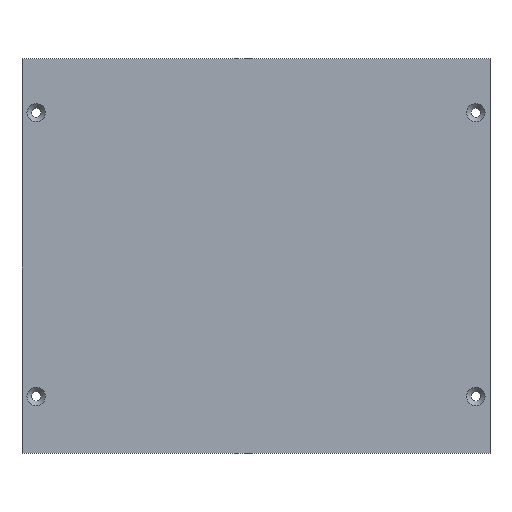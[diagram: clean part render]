
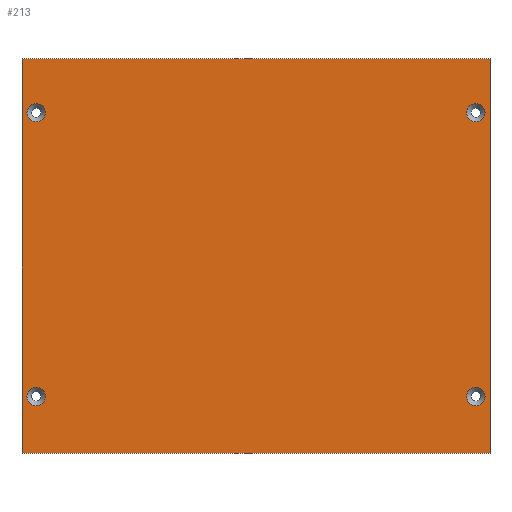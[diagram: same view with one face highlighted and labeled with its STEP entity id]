
A CAD part, top view. The second image highlights one B-rep face of the part: STEP entity #213.
In plain terms, the highlighted planar face has unit normal (0, 0, 1).
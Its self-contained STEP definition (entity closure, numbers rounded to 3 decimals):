
#24 = VERTEX_POINT('',#25);
#25 = CARTESIAN_POINT('',(0.,0.,3.));
#32 = PLANE('',#33);
#33 = AXIS2_PLACEMENT_3D('',#34,#35,#36);
#34 = CARTESIAN_POINT('',(0.,0.,0.));
#35 = DIRECTION('',(1.,0.,0.));
#36 = DIRECTION('',(0.,0.,1.));
#44 = PLANE('',#45);
#45 = AXIS2_PLACEMENT_3D('',#46,#47,#48);
#46 = CARTESIAN_POINT('',(0.,0.,0.));
#47 = DIRECTION('',(0.,1.,0.));
#48 = DIRECTION('',(0.,0.,1.));
#85 = VERTEX_POINT('',#86);
#86 = CARTESIAN_POINT('',(0.,139.,3.));
#100 = PLANE('',#101);
#101 = AXIS2_PLACEMENT_3D('',#102,#103,#104);
#102 = CARTESIAN_POINT('',(0.,139.,0.));
#103 = DIRECTION('',(0.,1.,0.));
#104 = DIRECTION('',(0.,0.,1.));
#112 = EDGE_CURVE('',#24,#85,#113,.T.);
#113 = SURFACE_CURVE('',#114,(#118,#125),.PCURVE_S1.);
#114 = LINE('',#115,#116);
#115 = CARTESIAN_POINT('',(0.,0.,3.));
#116 = VECTOR('',#117,1.);
#117 = DIRECTION('',(0.,1.,0.));
#118 = PCURVE('',#32,#119);
#119 = DEFINITIONAL_REPRESENTATION('',(#120),#124);
#120 = LINE('',#121,#122);
#121 = CARTESIAN_POINT('',(3.,0.));
#122 = VECTOR('',#123,1.);
#123 = DIRECTION('',(0.,-1.));
#124 = ( GEOMETRIC_REPRESENTATION_CONTEXT(2) 
PARAMETRIC_REPRESENTATION_CONTEXT() REPRESENTATION_CONTEXT('2D SPACE',''
  ) );
#125 = PCURVE('',#126,#131);
#126 = PLANE('',#127);
#127 = AXIS2_PLACEMENT_3D('',#128,#129,#130);
#128 = CARTESIAN_POINT('',(0.,0.,3.));
#129 = DIRECTION('',(0.,0.,1.));
#130 = DIRECTION('',(1.,0.,0.));
#131 = DEFINITIONAL_REPRESENTATION('',(#132),#136);
#132 = LINE('',#133,#134);
#133 = CARTESIAN_POINT('',(0.,0.));
#134 = VECTOR('',#135,1.);
#135 = DIRECTION('',(0.,1.));
#136 = ( GEOMETRIC_REPRESENTATION_CONTEXT(2) 
PARAMETRIC_REPRESENTATION_CONTEXT() REPRESENTATION_CONTEXT('2D SPACE',''
  ) );
#165 = EDGE_CURVE('',#24,#166,#168,.T.);
#166 = VERTEX_POINT('',#167);
#167 = CARTESIAN_POINT('',(165.,0.,3.));
#168 = SURFACE_CURVE('',#169,(#173,#180),.PCURVE_S1.);
#169 = LINE('',#170,#171);
#170 = CARTESIAN_POINT('',(0.,0.,3.));
#171 = VECTOR('',#172,1.);
#172 = DIRECTION('',(1.,0.,0.));
#173 = PCURVE('',#44,#174);
#174 = DEFINITIONAL_REPRESENTATION('',(#175),#179);
#175 = LINE('',#176,#177);
#176 = CARTESIAN_POINT('',(3.,0.));
#177 = VECTOR('',#178,1.);
#178 = DIRECTION('',(0.,1.));
#179 = ( GEOMETRIC_REPRESENTATION_CONTEXT(2) 
PARAMETRIC_REPRESENTATION_CONTEXT() REPRESENTATION_CONTEXT('2D SPACE',''
  ) );
#180 = PCURVE('',#126,#181);
#181 = DEFINITIONAL_REPRESENTATION('',(#182),#186);
#182 = LINE('',#183,#184);
#183 = CARTESIAN_POINT('',(0.,0.));
#184 = VECTOR('',#185,1.);
#185 = DIRECTION('',(1.,0.));
#186 = ( GEOMETRIC_REPRESENTATION_CONTEXT(2) 
PARAMETRIC_REPRESENTATION_CONTEXT() REPRESENTATION_CONTEXT('2D SPACE',''
  ) );
#202 = PLANE('',#203);
#203 = AXIS2_PLACEMENT_3D('',#204,#205,#206);
#204 = CARTESIAN_POINT('',(165.,0.,0.));
#205 = DIRECTION('',(1.,0.,0.));
#206 = DIRECTION('',(0.,0.,1.));
#213 = ADVANCED_FACE('',(#214,#262,#293,#324,#355),#126,.T.);
#214 = FACE_BOUND('',#215,.T.);
#215 = EDGE_LOOP('',(#216,#217,#218,#241));
#216 = ORIENTED_EDGE('',*,*,#112,.F.);
#217 = ORIENTED_EDGE('',*,*,#165,.T.);
#218 = ORIENTED_EDGE('',*,*,#219,.T.);
#219 = EDGE_CURVE('',#166,#220,#222,.T.);
#220 = VERTEX_POINT('',#221);
#221 = CARTESIAN_POINT('',(165.,139.,3.));
#222 = SURFACE_CURVE('',#223,(#227,#234),.PCURVE_S1.);
#223 = LINE('',#224,#225);
#224 = CARTESIAN_POINT('',(165.,0.,3.));
#225 = VECTOR('',#226,1.);
#226 = DIRECTION('',(0.,1.,0.));
#227 = PCURVE('',#126,#228);
#228 = DEFINITIONAL_REPRESENTATION('',(#229),#233);
#229 = LINE('',#230,#231);
#230 = CARTESIAN_POINT('',(165.,0.));
#231 = VECTOR('',#232,1.);
#232 = DIRECTION('',(0.,1.));
#233 = ( GEOMETRIC_REPRESENTATION_CONTEXT(2) 
PARAMETRIC_REPRESENTATION_CONTEXT() REPRESENTATION_CONTEXT('2D SPACE',''
  ) );
#234 = PCURVE('',#202,#235);
#235 = DEFINITIONAL_REPRESENTATION('',(#236),#240);
#236 = LINE('',#237,#238);
#237 = CARTESIAN_POINT('',(3.,0.));
#238 = VECTOR('',#239,1.);
#239 = DIRECTION('',(0.,-1.));
#240 = ( GEOMETRIC_REPRESENTATION_CONTEXT(2) 
PARAMETRIC_REPRESENTATION_CONTEXT() REPRESENTATION_CONTEXT('2D SPACE',''
  ) );
#241 = ORIENTED_EDGE('',*,*,#242,.F.);
#242 = EDGE_CURVE('',#85,#220,#243,.T.);
#243 = SURFACE_CURVE('',#244,(#248,#255),.PCURVE_S1.);
#244 = LINE('',#245,#246);
#245 = CARTESIAN_POINT('',(0.,139.,3.));
#246 = VECTOR('',#247,1.);
#247 = DIRECTION('',(1.,0.,0.));
#248 = PCURVE('',#126,#249);
#249 = DEFINITIONAL_REPRESENTATION('',(#250),#254);
#250 = LINE('',#251,#252);
#251 = CARTESIAN_POINT('',(0.,139.));
#252 = VECTOR('',#253,1.);
#253 = DIRECTION('',(1.,0.));
#254 = ( GEOMETRIC_REPRESENTATION_CONTEXT(2) 
PARAMETRIC_REPRESENTATION_CONTEXT() REPRESENTATION_CONTEXT('2D SPACE',''
  ) );
#255 = PCURVE('',#100,#256);
#256 = DEFINITIONAL_REPRESENTATION('',(#257),#261);
#257 = LINE('',#258,#259);
#258 = CARTESIAN_POINT('',(3.,0.));
#259 = VECTOR('',#260,1.);
#260 = DIRECTION('',(0.,1.));
#261 = ( GEOMETRIC_REPRESENTATION_CONTEXT(2) 
PARAMETRIC_REPRESENTATION_CONTEXT() REPRESENTATION_CONTEXT('2D SPACE',''
  ) );
#262 = FACE_BOUND('',#263,.T.);
#263 = EDGE_LOOP('',(#264));
#264 = ORIENTED_EDGE('',*,*,#265,.F.);
#265 = EDGE_CURVE('',#266,#266,#268,.T.);
#266 = VERTEX_POINT('',#267);
#267 = CARTESIAN_POINT('',(8.25,20.,3.));
#268 = SURFACE_CURVE('',#269,(#274,#281),.PCURVE_S1.);
#269 = CIRCLE('',#270,3.25);
#270 = AXIS2_PLACEMENT_3D('',#271,#272,#273);
#271 = CARTESIAN_POINT('',(5.,20.,3.));
#272 = DIRECTION('',(0.,0.,1.));
#273 = DIRECTION('',(1.,0.,-0.));
#274 = PCURVE('',#126,#275);
#275 = DEFINITIONAL_REPRESENTATION('',(#276),#280);
#276 = CIRCLE('',#277,3.25);
#277 = AXIS2_PLACEMENT_2D('',#278,#279);
#278 = CARTESIAN_POINT('',(5.,20.));
#279 = DIRECTION('',(1.,0.));
#280 = ( GEOMETRIC_REPRESENTATION_CONTEXT(2) 
PARAMETRIC_REPRESENTATION_CONTEXT() REPRESENTATION_CONTEXT('2D SPACE',''
  ) );
#281 = PCURVE('',#282,#287);
#282 = CONICAL_SURFACE('',#283,1.7,0.785);
#283 = AXIS2_PLACEMENT_3D('',#284,#285,#286);
#284 = CARTESIAN_POINT('',(5.,20.,1.45));
#285 = DIRECTION('',(0.,0.,1.));
#286 = DIRECTION('',(1.,0.,-0.));
#287 = DEFINITIONAL_REPRESENTATION('',(#288),#292);
#288 = LINE('',#289,#290);
#289 = CARTESIAN_POINT('',(0.,1.55));
#290 = VECTOR('',#291,1.);
#291 = DIRECTION('',(1.,0.));
#292 = ( GEOMETRIC_REPRESENTATION_CONTEXT(2) 
PARAMETRIC_REPRESENTATION_CONTEXT() REPRESENTATION_CONTEXT('2D SPACE',''
  ) );
#293 = FACE_BOUND('',#294,.T.);
#294 = EDGE_LOOP('',(#295));
#295 = ORIENTED_EDGE('',*,*,#296,.F.);
#296 = EDGE_CURVE('',#297,#297,#299,.T.);
#297 = VERTEX_POINT('',#298);
#298 = CARTESIAN_POINT('',(163.25,20.,3.));
#299 = SURFACE_CURVE('',#300,(#305,#312),.PCURVE_S1.);
#300 = CIRCLE('',#301,3.25);
#301 = AXIS2_PLACEMENT_3D('',#302,#303,#304);
#302 = CARTESIAN_POINT('',(160.,20.,3.));
#303 = DIRECTION('',(0.,0.,1.));
#304 = DIRECTION('',(1.,0.,-0.));
#305 = PCURVE('',#126,#306);
#306 = DEFINITIONAL_REPRESENTATION('',(#307),#311);
#307 = CIRCLE('',#308,3.25);
#308 = AXIS2_PLACEMENT_2D('',#309,#310);
#309 = CARTESIAN_POINT('',(160.,20.));
#310 = DIRECTION('',(1.,0.));
#311 = ( GEOMETRIC_REPRESENTATION_CONTEXT(2) 
PARAMETRIC_REPRESENTATION_CONTEXT() REPRESENTATION_CONTEXT('2D SPACE',''
  ) );
#312 = PCURVE('',#313,#318);
#313 = CONICAL_SURFACE('',#314,1.7,0.785);
#314 = AXIS2_PLACEMENT_3D('',#315,#316,#317);
#315 = CARTESIAN_POINT('',(160.,20.,1.45));
#316 = DIRECTION('',(0.,0.,1.));
#317 = DIRECTION('',(1.,0.,-0.));
#318 = DEFINITIONAL_REPRESENTATION('',(#319),#323);
#319 = LINE('',#320,#321);
#320 = CARTESIAN_POINT('',(0.,1.55));
#321 = VECTOR('',#322,1.);
#322 = DIRECTION('',(1.,0.));
#323 = ( GEOMETRIC_REPRESENTATION_CONTEXT(2) 
PARAMETRIC_REPRESENTATION_CONTEXT() REPRESENTATION_CONTEXT('2D SPACE',''
  ) );
#324 = FACE_BOUND('',#325,.T.);
#325 = EDGE_LOOP('',(#326));
#326 = ORIENTED_EDGE('',*,*,#327,.F.);
#327 = EDGE_CURVE('',#328,#328,#330,.T.);
#328 = VERTEX_POINT('',#329);
#329 = CARTESIAN_POINT('',(8.25,120.,3.));
#330 = SURFACE_CURVE('',#331,(#336,#343),.PCURVE_S1.);
#331 = CIRCLE('',#332,3.25);
#332 = AXIS2_PLACEMENT_3D('',#333,#334,#335);
#333 = CARTESIAN_POINT('',(5.,120.,3.));
#334 = DIRECTION('',(0.,0.,1.));
#335 = DIRECTION('',(1.,0.,-0.));
#336 = PCURVE('',#126,#337);
#337 = DEFINITIONAL_REPRESENTATION('',(#338),#342);
#338 = CIRCLE('',#339,3.25);
#339 = AXIS2_PLACEMENT_2D('',#340,#341);
#340 = CARTESIAN_POINT('',(5.,120.));
#341 = DIRECTION('',(1.,0.));
#342 = ( GEOMETRIC_REPRESENTATION_CONTEXT(2) 
PARAMETRIC_REPRESENTATION_CONTEXT() REPRESENTATION_CONTEXT('2D SPACE',''
  ) );
#343 = PCURVE('',#344,#349);
#344 = CONICAL_SURFACE('',#345,1.7,0.785);
#345 = AXIS2_PLACEMENT_3D('',#346,#347,#348);
#346 = CARTESIAN_POINT('',(5.,120.,1.45));
#347 = DIRECTION('',(0.,0.,1.));
#348 = DIRECTION('',(1.,0.,-0.));
#349 = DEFINITIONAL_REPRESENTATION('',(#350),#354);
#350 = LINE('',#351,#352);
#351 = CARTESIAN_POINT('',(0.,1.55));
#352 = VECTOR('',#353,1.);
#353 = DIRECTION('',(1.,0.));
#354 = ( GEOMETRIC_REPRESENTATION_CONTEXT(2) 
PARAMETRIC_REPRESENTATION_CONTEXT() REPRESENTATION_CONTEXT('2D SPACE',''
  ) );
#355 = FACE_BOUND('',#356,.T.);
#356 = EDGE_LOOP('',(#357));
#357 = ORIENTED_EDGE('',*,*,#358,.F.);
#358 = EDGE_CURVE('',#359,#359,#361,.T.);
#359 = VERTEX_POINT('',#360);
#360 = CARTESIAN_POINT('',(163.25,120.,3.));
#361 = SURFACE_CURVE('',#362,(#367,#374),.PCURVE_S1.);
#362 = CIRCLE('',#363,3.25);
#363 = AXIS2_PLACEMENT_3D('',#364,#365,#366);
#364 = CARTESIAN_POINT('',(160.,120.,3.));
#365 = DIRECTION('',(0.,0.,1.));
#366 = DIRECTION('',(1.,0.,-0.));
#367 = PCURVE('',#126,#368);
#368 = DEFINITIONAL_REPRESENTATION('',(#369),#373);
#369 = CIRCLE('',#370,3.25);
#370 = AXIS2_PLACEMENT_2D('',#371,#372);
#371 = CARTESIAN_POINT('',(160.,120.));
#372 = DIRECTION('',(1.,0.));
#373 = ( GEOMETRIC_REPRESENTATION_CONTEXT(2) 
PARAMETRIC_REPRESENTATION_CONTEXT() REPRESENTATION_CONTEXT('2D SPACE',''
  ) );
#374 = PCURVE('',#375,#380);
#375 = CONICAL_SURFACE('',#376,1.7,0.785);
#376 = AXIS2_PLACEMENT_3D('',#377,#378,#379);
#377 = CARTESIAN_POINT('',(160.,120.,1.45));
#378 = DIRECTION('',(0.,0.,1.));
#379 = DIRECTION('',(1.,0.,-0.));
#380 = DEFINITIONAL_REPRESENTATION('',(#381),#385);
#381 = LINE('',#382,#383);
#382 = CARTESIAN_POINT('',(0.,1.55));
#383 = VECTOR('',#384,1.);
#384 = DIRECTION('',(1.,0.));
#385 = ( GEOMETRIC_REPRESENTATION_CONTEXT(2) 
PARAMETRIC_REPRESENTATION_CONTEXT() REPRESENTATION_CONTEXT('2D SPACE',''
  ) );
